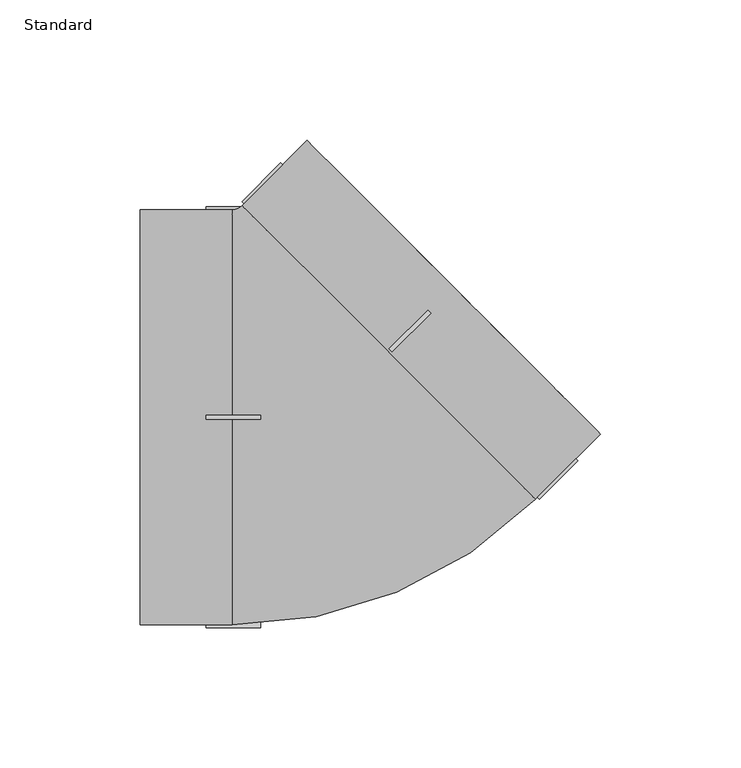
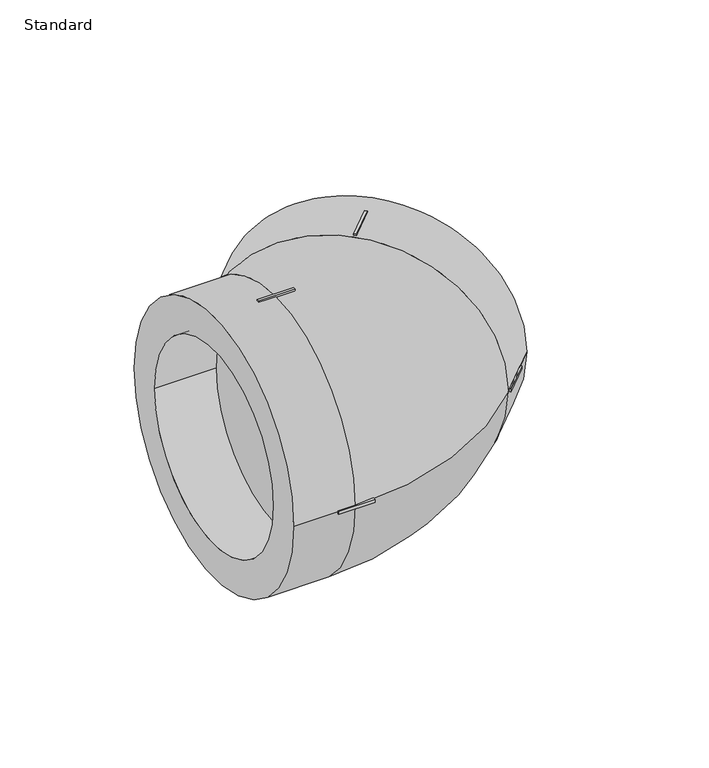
"""IFC4 building model written with IfcOpenShell, lengths in millimetres: pipe fitting geometry, EGB_VASEN_ PPR_Codo 90 WXR200_Codo 45 WXR220  : Standard."""

from ifc_helpers import new_model, si_unit, point, frame, origin, place, context, project, spatial, polyline, circle_curve, ellipse_curve, trimmed, outline, extrude, source, transform, mapped, element, save
from ifc_brep_helpers import plane_surface, cylinder_surface, revolved_surface, advanced_brep


def standard_d2b08ecf(model_context):
    return source(origin(), model_context, "Body", "SolidModel", [
        advanced_brep(
        [(-65.5, -74.0, 0.0), (-65.5, 74.0, 0.0), (-65.5, -55.0, 0.0), (-65.5, 55.0, 0.0), (-32.6518036, -74.0, 0.0), (-32.6518036, 74.0, 0.0), (-32.6518036, -55.0, 0.0), (-32.6518036, 55.0, 0.0), (61.9791847, -15.8025612, 0.0), (-15.8025612, 61.9791847, 0.0), (-29.2375901, 75.4142136, 0.0), (75.4142136, -29.2375901, 0.0), (23.0883118, 23.0883118, 74.0), (23.0883118, 23.0883118, -74.0), (98.641396, -6.0104076, 0.0), (-6.0104076, 98.641396, 0.0), (85.2063671, 7.4246212, 0.0), (7.4246212, 85.2063671, 0.0)],
        [
            (0, 1, circle_curve(frame((-65.5, 0.0, 0.0), z_axis=(-1.0, 0.0, 0.0), x_axis=(0.0, 1.0, 0.0)), 74.0)),
            (1, 0, circle_curve(frame((-65.5, 0.0, 0.0), z_axis=(-1.0, 0.0, 0.0), x_axis=(0.0, 1.0, 0.0)), 74.0)),
            (2, 3, circle_curve(frame((-65.5, 0.0, 0.0), z_axis=(1.0, 0.0, 0.0), x_axis=(0.0, 1.0, 0.0)), 55.0)),
            (3, 2, circle_curve(frame((-65.5, 0.0, 0.0), z_axis=(1.0, 0.0, 0.0), x_axis=(0.0, 1.0, 0.0)), 55.0)),
            (0, 4),
            (4, 5, circle_curve(frame((-32.6518036, 0.0, 0.0), z_axis=(-1.0, 0.0, 0.0), x_axis=(0.0, 1.0, 0.0)), 74.0)),
            (5, 1),
            (5, 4, circle_curve(frame((-32.6518036, 0.0, 0.0), z_axis=(-1.0, 0.0, 0.0), x_axis=(0.0, 1.0, 0.0)), 74.0)),
            (2, 6),
            (6, 7, circle_curve(frame((-32.6518036, 0.0, 0.0), z_axis=(1.0, 0.0, 0.0), x_axis=(0.0, 1.0, 0.0)), 55.0)),
            (7, 3),
            (7, 6, circle_curve(frame((-32.6518036, 0.0, 0.0), z_axis=(1.0, 0.0, 0.0), x_axis=(0.0, 1.0, 0.0)), 55.0)),
            (8, 9, circle_curve(frame((23.0883118, 23.0883118, 0.0), z_axis=(0.7071067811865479, 0.7071067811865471, 0.0), x_axis=(-0.7071067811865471, 0.7071067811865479, 0.0)), 55.0)),
            (9, 8, circle_curve(frame((23.0883118, 23.0883118, 0.0), z_axis=(0.7071067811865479, 0.7071067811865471, 0.0), x_axis=(-0.7071067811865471, 0.7071067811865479, 0.0)), 55.0)),
            (10, 5, circle_curve(frame((-32.6518036, 78.8284271, 0.0), z_axis=(0.0, 0.0, -1.0), x_axis=(0.0, -1.0, 0.0)), 4.8284271)),
            (4, 11, circle_curve(frame((-32.6518036, 78.8284271, 0.0), z_axis=(0.0, 0.0, 1.0), x_axis=(0.0, -1.0, 0.0)), 152.8284271)),
            (11, 12, circle_curve(frame((23.0883118, 23.0883118, 0.0), z_axis=(-0.7071067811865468, -0.7071067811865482, 0.0), x_axis=(-0.7071067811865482, 0.7071067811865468, 0.0)), 74.0)),
            (12, 10, circle_curve(frame((23.0883118, 23.0883118, 0.0), z_axis=(-0.7071067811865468, -0.7071067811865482, 0.0), x_axis=(-0.7071067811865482, 0.7071067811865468, 0.0)), 74.0)),
            (10, 13, circle_curve(frame((23.0883118, 23.0883118, 0.0), z_axis=(-0.7071067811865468, -0.7071067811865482, 0.0), x_axis=(-0.7071067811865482, 0.7071067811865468, 0.0)), 74.0)),
            (13, 11, circle_curve(frame((23.0883118, 23.0883118, 0.0), z_axis=(-0.7071067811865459, -0.7071067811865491, 0.0), x_axis=(-0.7071067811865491, 0.7071067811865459, 0.0)), 74.0)),
            (14, 15, circle_curve(frame((46.3154942, 46.3154942, 0.0), z_axis=(0.7071067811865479, 0.7071067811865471, 0.0), x_axis=(-0.7071067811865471, 0.7071067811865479, 0.0)), 74.0)),
            (15, 14, circle_curve(frame((46.3154942, 46.3154942, 0.0), z_axis=(0.7071067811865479, 0.7071067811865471, 0.0), x_axis=(-0.7071067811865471, 0.7071067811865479, 0.0)), 74.0)),
            (16, 17, circle_curve(frame((46.3154942, 46.3154942, 0.0), z_axis=(-0.7071067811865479, -0.7071067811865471, 0.0), x_axis=(-0.7071067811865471, 0.7071067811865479, 0.0)), 55.0)),
            (17, 16, circle_curve(frame((46.3154942, 46.3154942, 0.0), z_axis=(-0.7071067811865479, -0.7071067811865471, 0.0), x_axis=(-0.7071067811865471, 0.7071067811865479, 0.0)), 55.0)),
            (15, 10),
            (11, 14),
            (17, 9),
            (8, 16),
        ],
        [
            plane_surface(frame((-65.5, 0.0, 0.0), z_axis=(-1.0, 0.0, 0.0), x_axis=(0.0, 0.0, 1.0))),
            cylinder_surface(frame((-65.5, 0.0, 0.0), z_axis=(-1.0, 0.0, 0.0), x_axis=(0.0, 1.0, 0.0)), 74.0),
            revolved_surface(polyline([(-32.6518036, 55.0, 0.0), (-65.5, 55.0, 0.0)]), (-65.5, 0.0, 0.0), (1.0, 0.0, 0.0)),
            plane_surface(frame((-32.6518036, 0.0, 0.0), z_axis=(-1.0, 0.0, 0.0), x_axis=(0.0, 0.0, 1.0))),
            plane_surface(frame((23.0883118, 23.0883118, 0.0), z_axis=(0.7071067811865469, 0.7071067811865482, 0.0), x_axis=(0.0, 0.0, 1.0))),
            revolved_surface(trimmed(ellipse_curve(frame((-32.6518036, 0.0, 0.0), z_axis=(-1.0, 0.0, 0.0), x_axis=(0.0, 1.0, 0.0)), 74.0, 74.0), [point((-32.6518036, -74.0, 0.0))], [point((-32.6518036, 74.0, 0.0))], True, "CARTESIAN"), (-32.6518036, 78.8284271, 0.0), (0.0, 0.0, 1.0)),
            revolved_surface(trimmed(ellipse_curve(frame((-32.6518036, 0.0, 0.0), z_axis=(-1.0, 0.0, 0.0), x_axis=(0.0, 1.0, 0.0)), 74.0, 74.0), [point((-32.6518036, 74.0, 0.0))], [point((-32.6518036, -74.0, 0.0))], True, "CARTESIAN"), (-32.6518036, 78.8284271, 0.0), (0.0, 0.0, 1.0)),
            plane_surface(frame((46.3154942, 46.3154942, 0.0), z_axis=(0.7071067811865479, 0.7071067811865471, 0.0), x_axis=(0.0, 0.0, 1.0))),
            cylinder_surface(frame((23.0883118, 23.0883118, 0.0), z_axis=(-0.7071067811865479, -0.7071067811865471, 0.0), x_axis=(-0.7071067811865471, 0.7071067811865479, 0.0)), 74.0),
            revolved_surface(polyline([(7.4246212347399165, 85.20636716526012, 0.0), (-15.802561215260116, 61.97918471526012, 0.0)]), (23.0883118, 23.0883118, 0.0), (0.7071067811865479, 0.7071067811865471, 0.0)),
        ],
        [
            (0, [[1, 2], [3, 4]]),
            (1, [[-1, 5, 6, 7]]),
            (1, [[-2, -7, 8, -5]]),
            (2, [[-3, 9, 10, 11]]),
            (2, [[-4, -11, 12, -9]]),
            (3, [[-10, -12]]),
            (4, [[13, 14]]),
            (5, [[15, -6, 16, 17, 18]]),
            (6, [[-15, 19, 20, -16, -8]]),
            (7, [[21, 22], [23, 24]]),
            (8, [[-22, 25, -18, -17, 26]]),
            (8, [[-21, -26, -20, -19, -25]]),
            (9, [[-24, 27, -13, 28]]),
            (9, [[-23, -28, -14, -27]]),
        ],
    ),
        extrude(outline(polyline([(24.3257486, 23.2650884), (23.2650884, 24.3257486), (37.0536707, 38.1143309), (38.1143309, 37.0536707), (24.3257486, 23.2650884)])), frame((0.0, 0.0, 73.0), z_axis=(0.0, 0.0, 1.0), x_axis=(1.0, 0.0, 0.0)), (0.0, 0.0, 1.0), 2.0),
        extrude(outline(polyline([(-27.8233765, 75.4142136), (-29.2375901, 76.8284271), (-15.4490078, 90.6170094), (-14.0347943, 89.2027958), (-27.8233765, 75.4142136)])), frame((0.0, 0.0, -0.75), z_axis=(0.0, 0.0, 1.0), x_axis=(1.0, 0.0, 0.0)), (0.0, 0.0, 1.0), 1.5),
        extrude(outline(polyline([(76.8284271, -29.2375901), (75.4142136, -27.8233765), (89.2027958, -14.0347943), (90.6170094, -15.4490078), (76.8284271, -29.2375901)])), frame((0.0, 0.0, -0.75), z_axis=(0.0, 0.0, 1.0), x_axis=(1.0, 0.0, 0.0)), (0.0, 0.0, 1.0), 1.5),
        extrude(outline(polyline([(24.3257486, 23.2650884), (23.2650884, 24.3257486), (37.0536707, 38.1143309), (38.1143309, 37.0536707), (24.3257486, 23.2650884)])), frame((0.0, 0.0, -75.0), z_axis=(0.0, 0.0, 1.0), x_axis=(1.0, 0.0, 0.0)), (0.0, 0.0, 1.0), 2.0),
        extrude(outline(polyline([(-22.5518036, 0.75), (-22.5518036, -0.75), (-42.0518036, -0.75), (-42.0518036, 0.75), (-22.5518036, 0.75)])), frame((0.0, 0.0, 73.0), z_axis=(0.0, 0.0, 1.0), x_axis=(1.0, 0.0, 0.0)), (0.0, 0.0, 1.0), 2.0),
        extrude(outline(polyline([(-22.5518036, 0.75), (-22.5518036, -0.75), (-42.0518036, -0.75), (-42.0518036, 0.75), (-22.5518036, 0.75)])), frame((0.0, 0.0, -75.0), z_axis=(0.0, 0.0, 1.0), x_axis=(1.0, 0.0, 0.0)), (0.0, 0.0, 1.0), 2.0),
        extrude(outline(polyline([(-22.5518036, 75.0), (-22.5518036, 73.0), (-42.0518036, 73.0), (-42.0518036, 75.0), (-22.5518036, 75.0)])), frame((0.0, 0.0, -0.75), z_axis=(0.0, 0.0, 1.0), x_axis=(1.0, 0.0, 0.0)), (0.0, 0.0, 1.0), 1.5),
        extrude(outline(polyline([(-22.5518036, -73.0), (-22.5518036, -75.0), (-42.0518036, -75.0), (-42.0518036, -73.0), (-22.5518036, -73.0)])), frame((0.0, 0.0, -0.75), z_axis=(0.0, 0.0, 1.0), x_axis=(1.0, 0.0, 0.0)), (0.0, 0.0, 1.0), 1.5),
    ])


if __name__ == "__main__":
    model = new_model("IFC4")
    model_context = context("Model", 3, world=origin())
    ifc_project = project(units=[si_unit("LENGTHUNIT", "METRE", prefix="MILLI")], contexts=[model_context])
    site = spatial("IfcSite", under=ifc_project)
    building = spatial("IfcBuilding", under=site)
    placement = place(None, origin())
    standard_shape = standard_d2b08ecf(model_context)
    element("IfcPipeFitting", 1, ObjectType="EGB_VASEN_ PPR_Codo 90 WXR200_Codo 45 WXR220  : Standard", at=placement, inside=building, context=model_context, shape_type="MappedRepresentation", body=[
        mapped(standard_shape, transform((0.0, 0.0, 0.0), x_axis=(1.0, 0.0, 0.0), y_axis=(0.0, 1.0, 0.0), z_axis=(0.0, 0.0, 1.0))),
    ])
    save(model, "model.ifc")
